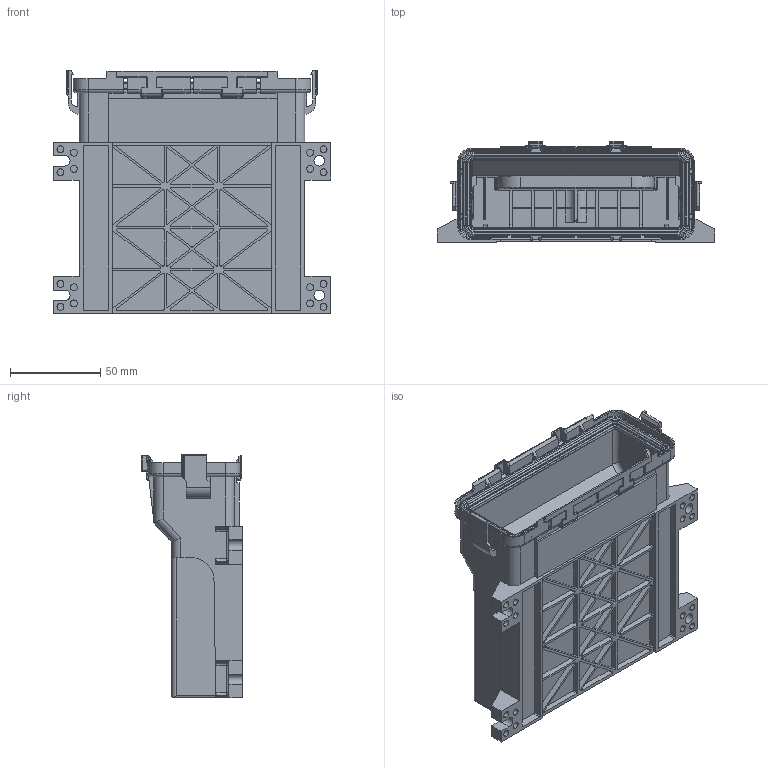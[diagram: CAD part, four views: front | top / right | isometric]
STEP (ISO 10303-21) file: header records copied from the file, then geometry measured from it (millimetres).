
FILE_DESCRIPTION((''),'2;1');
FILE_NAME('5810130043_ICE30_ASM','2008-07-08T',('eake'),(''),'PRO/ENGINEER BY PARAMETRIC TECHNOLOGY CORPORATION, 2005451','PRO/ENGINEER BY PARAMETRIC TECHNOLOGY CORPORATION, 2005451','');
FILE_SCHEMA(('CONFIG_CONTROL_DESIGN'));
Length unit declared in the file: inch
Products named in the file (3): 4828770161_NO_HEATS; 463089918X_SEAL30; 5810130043_ICE30_ASM
Assembly tree (2 placements, depth 2):
  5810130043_ICE30_ASM
    4828770161_NO_HEATS
    463089918X_SEAL30
Bounding box: 153.16 x 56.01 x 134.62 mm (x, y, z)
Volume: 150060.2 mm3; surface area: 126964.1 mm2
Topology: 2 solids, 2 shells, 2032 faces, 4994 edges, 3054 vertices
Faces by surface type: plane 866, cylinder 753, torus 184, extrusion 72, bspline 70, sphere 67, cone 20
Entity records: 69733 total; most frequent: CARTESIAN_POINT 21718, DIRECTION 10017, ORIENTED_EDGE 9988, EDGE_CURVE 4994, AXIS2_PLACEMENT_3D 3477, VECTOR 3063, VERTEX_POINT 3054, LINE 2991
